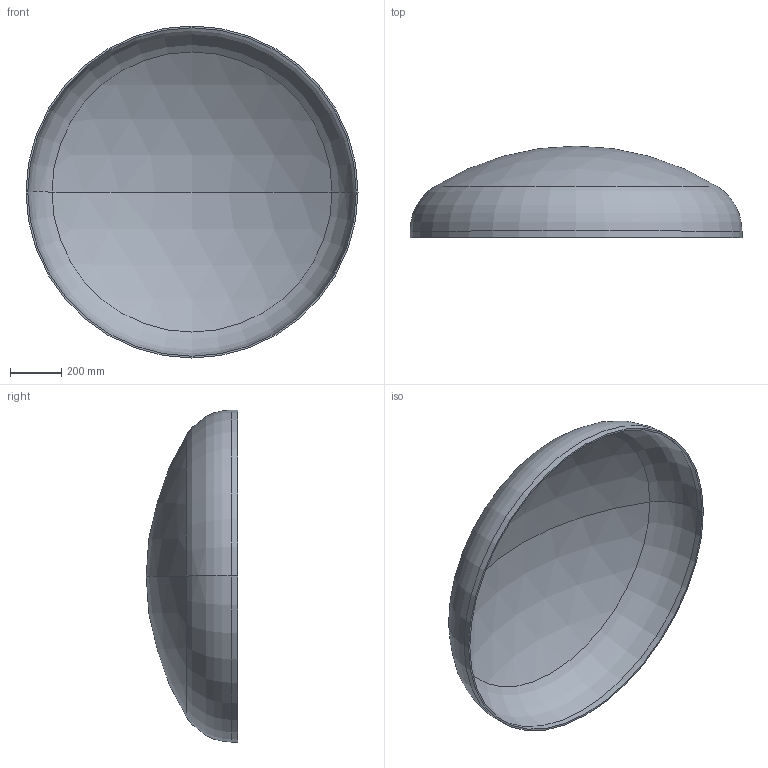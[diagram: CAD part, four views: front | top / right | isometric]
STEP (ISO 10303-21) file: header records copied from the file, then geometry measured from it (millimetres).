
FILE_DESCRIPTION (( 'STEP AP203' ), '1' );
FILE_NAME ('DIN 28013 Korbbogenform_-_Boden DIN 28013 - 1300 x 25 - I - s=7.step', '2016-07-01T09:41:47', ( '' ), ( '' ), 'SwSTEP 2.0', 'SolidWorks 2013', '' );
FILE_SCHEMA (( 'CONFIG_CONTROL_DESIGN' ));
Length unit declared in the file: millimetre
Products named in the file (1): DIN 28013 Korbbogenform_-_Boden DIN 28013 - 1300 x 25 - I - s=7
Bounding box: 1300 x 358.31 x 1300 mm (x, y, z)
Volume: 13485740.8 mm3; surface area: 3881604.5 mm2
Topology: 1 solids, 1 shells, 13 faces, 24 edges, 14 vertices
Faces by surface type: torus 4, cylinder 4, sphere 4, plane 1
Entity records: 407 total; most frequent: DIRECTION 72, CARTESIAN_POINT 52, ORIENTED_EDGE 48, AXIS2_PLACEMENT_3D 34, EDGE_CURVE 24, CIRCLE 20, EDGE_LOOP 14, VERTEX_POINT 14
